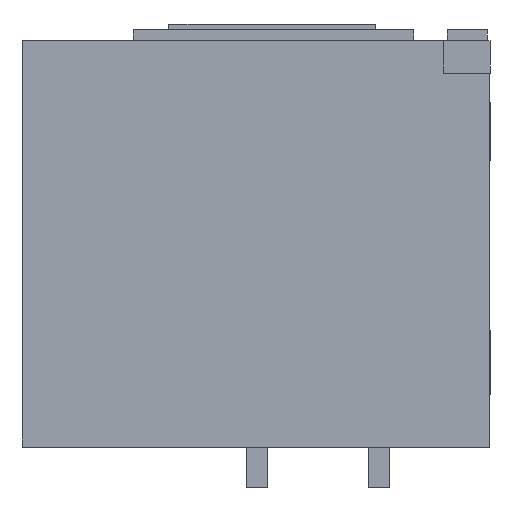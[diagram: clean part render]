
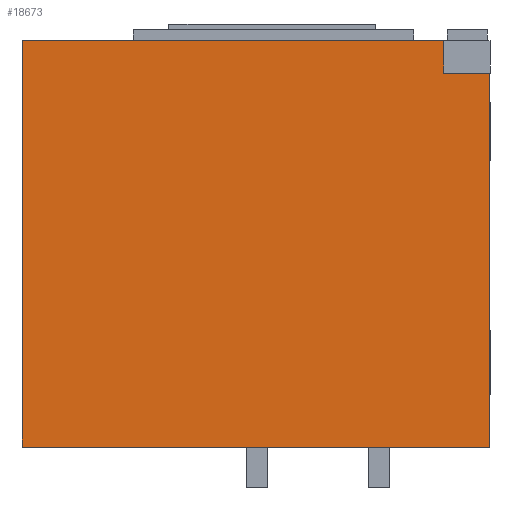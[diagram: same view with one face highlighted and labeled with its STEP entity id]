
A CAD part, left-side view. The second image highlights one B-rep face of the part: STEP entity #18673.
In plain terms, the highlighted planar face has unit normal (-1, 0, 0).
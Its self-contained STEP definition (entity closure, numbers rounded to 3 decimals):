
#72 = LINE ( 'NONE', #30393, #19875 ) ;
#136 = DIRECTION ( 'NONE',  ( -1., 0., 0. ) ) ;
#477 = ORIENTED_EDGE ( 'NONE', *, *, #20931, .F. ) ;
#957 = DIRECTION ( 'NONE',  ( 0., 0., 1. ) ) ;
#2522 = DIRECTION ( 'NONE',  ( 0., -1., 0. ) ) ;
#4310 = EDGE_LOOP ( 'NONE', ( #477, #5007, #22376, #24382, #13709, #8338 ) ) ;
#5007 = ORIENTED_EDGE ( 'NONE', *, *, #30550, .F. ) ;
#7589 = VERTEX_POINT ( 'NONE', #10670 ) ;
#7785 = CARTESIAN_POINT ( 'NONE',  ( -262.5, 0., -373.5 ) ) ;
#8338 = ORIENTED_EDGE ( 'NONE', *, *, #10273, .T. ) ;
#8872 = LINE ( 'NONE', #31692, #29161 ) ;
#9844 = CARTESIAN_POINT ( 'NONE',  ( -262.5, 0., -373.5 ) ) ;
#10273 = EDGE_CURVE ( 'NONE', #12917, #7589, #8872, .T. ) ;
#10457 = LINE ( 'NONE', #33184, #29952 ) ;
#10670 = CARTESIAN_POINT ( 'NONE',  ( -262.5, 42.5, 0. ) ) ;
#11262 = LINE ( 'NONE', #29729, #23190 ) ;
#11972 = VECTOR ( 'NONE', #18585, 1000. ) ;
#12917 = VERTEX_POINT ( 'NONE', #14660 ) ;
#13709 = ORIENTED_EDGE ( 'NONE', *, *, #21918, .F. ) ;
#14139 = CARTESIAN_POINT ( 'NONE',  ( -262.5, 430., -373.5 ) ) ;
#14660 = CARTESIAN_POINT ( 'NONE',  ( -262.5, 42.5, -30. ) ) ;
#15110 = VERTEX_POINT ( 'NONE', #9844 ) ;
#17958 = DIRECTION ( 'NONE',  ( 0., -1., 0. ) ) ;
#18249 = DIRECTION ( 'NONE',  ( 0., -1., 0. ) ) ;
#18585 = DIRECTION ( 'NONE',  ( 0., -1., 0. ) ) ;
#18673 = ADVANCED_FACE ( 'NONE', ( #30862 ), #30917, .T. ) ;
#18818 = LINE ( 'NONE', #30632, #31529 ) ;
#19394 = CARTESIAN_POINT ( 'NONE',  ( -262.5, 430., 0. ) ) ;
#19875 = VECTOR ( 'NONE', #32889, 1000. ) ;
#20931 = EDGE_CURVE ( 'NONE', #24097, #7589, #18818, .T. ) ;
#21918 = EDGE_CURVE ( 'NONE', #12917, #29491, #10457, .T. ) ;
#22133 = DIRECTION ( 'NONE',  ( 0., 0., 1. ) ) ;
#22376 = ORIENTED_EDGE ( 'NONE', *, *, #23193, .T. ) ;
#23190 = VECTOR ( 'NONE', #22133, 1000. ) ;
#23193 = EDGE_CURVE ( 'NONE', #32503, #15110, #32228, .T. ) ;
#23875 = CARTESIAN_POINT ( 'NONE',  ( -262.5, 0., -373.5 ) ) ;
#24097 = VERTEX_POINT ( 'NONE', #19394 ) ;
#24382 = ORIENTED_EDGE ( 'NONE', *, *, #25614, .T. ) ;
#25614 = EDGE_CURVE ( 'NONE', #15110, #29491, #72, .T. ) ;
#27984 = AXIS2_PLACEMENT_3D ( 'NONE', #7785, #136, #18249 ) ;
#29161 = VECTOR ( 'NONE', #957, 1000. ) ;
#29491 = VERTEX_POINT ( 'NONE', #30516 ) ;
#29729 = CARTESIAN_POINT ( 'NONE',  ( -262.5, 430., -373.5 ) ) ;
#29952 = VECTOR ( 'NONE', #2522, 1000. ) ;
#30393 = CARTESIAN_POINT ( 'NONE',  ( -262.5, 0., -373.5 ) ) ;
#30516 = CARTESIAN_POINT ( 'NONE',  ( -262.5, 0., -30. ) ) ;
#30550 = EDGE_CURVE ( 'NONE', #32503, #24097, #11262, .T. ) ;
#30632 = CARTESIAN_POINT ( 'NONE',  ( -262.5, 0., 0. ) ) ;
#30862 = FACE_OUTER_BOUND ( 'NONE', #4310, .T. ) ;
#30917 = PLANE ( 'NONE',  #27984 ) ;
#31529 = VECTOR ( 'NONE', #17958, 1000. ) ;
#31692 = CARTESIAN_POINT ( 'NONE',  ( -262.5, 42.5, -373.5 ) ) ;
#32228 = LINE ( 'NONE', #23875, #11972 ) ;
#32503 = VERTEX_POINT ( 'NONE', #14139 ) ;
#32889 = DIRECTION ( 'NONE',  ( 0., 0., 1. ) ) ;
#33184 = CARTESIAN_POINT ( 'NONE',  ( -262.5, 430.001, -30. ) ) ;
